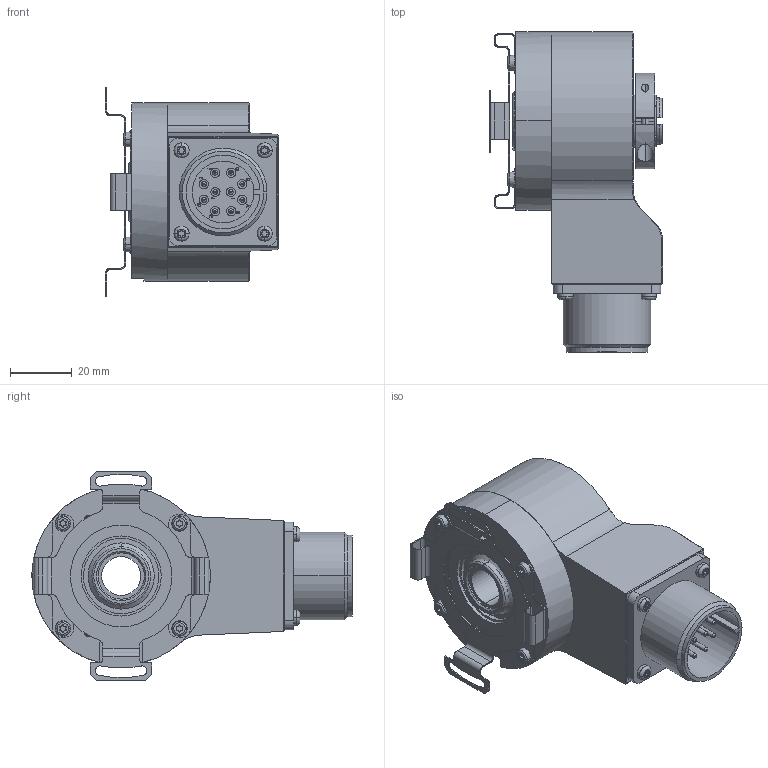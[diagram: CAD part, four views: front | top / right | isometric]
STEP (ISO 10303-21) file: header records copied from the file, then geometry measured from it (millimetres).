
FILE_DESCRIPTION (( 'STEP AP203' ), '1' );
FILE_NAME ('K58I.OXX.XXXXX.XC2253A.6XRCJ.step', '2025-12-08T12:17:53', ( '' ), ( '' ), 'SwSTEP 2.0', 'SolidWorks 2021', '' );
FILE_SCHEMA (( 'CONFIG_CONTROL_DESIGN' ));
Length unit declared in the file: millimetre
Products named in the file (1): K58I.OXX.XXXXX.XC2253A.6XRCJ
Bounding box: 56.19 x 104 x 68 mm (x, y, z)
Volume: 141585.8 mm3; surface area: 47789.9 mm2
Topology: 8 solids, 8 shells, 844 faces, 2104 edges, 1326 vertices
Faces by surface type: cylinder 356, plane 336, cone 61, bspline 55, torus 36
Entity records: 29376 total; most frequent: CARTESIAN_POINT 9025, DIRECTION 4330, ORIENTED_EDGE 4180, EDGE_CURVE 2090, AXIS2_PLACEMENT_3D 1622, VERTEX_POINT 1326, LINE 1086, VECTOR 1086
